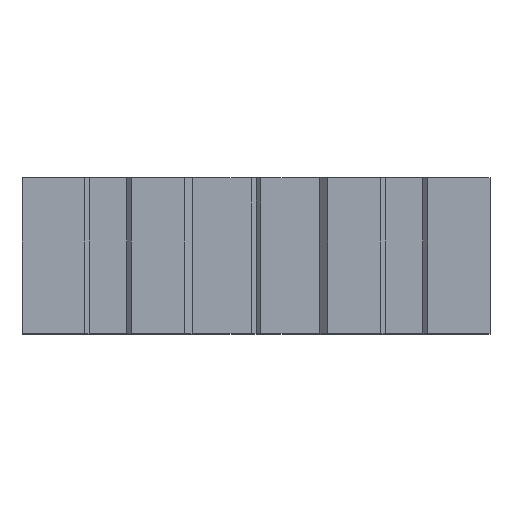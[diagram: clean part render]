
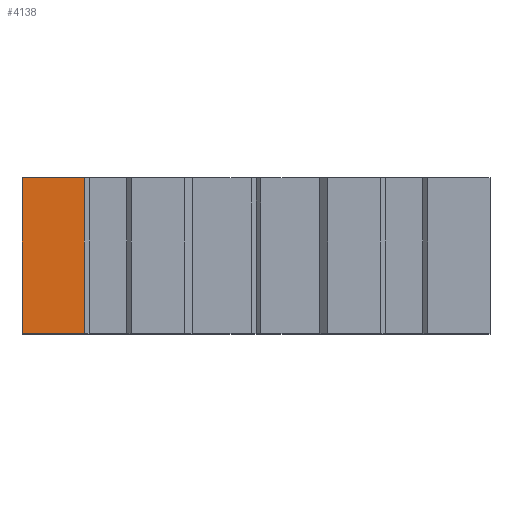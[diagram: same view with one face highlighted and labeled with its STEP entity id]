
A CAD part, top view. The second image highlights one B-rep face of the part: STEP entity #4138.
In plain terms, the highlighted planar face has unit normal (0, 0, 1).
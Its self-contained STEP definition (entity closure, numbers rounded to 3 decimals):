
#269=DIRECTION('',(1.,0.,0.));
#270=VECTOR('',#269,4.);
#271=CARTESIAN_POINT('',(-15.,0.,15.));
#272=LINE('',#271,#270);
#909=DIRECTION('',(1.,0.,0.));
#910=VECTOR('',#909,4.);
#911=CARTESIAN_POINT('',(-15.,10.,15.));
#912=LINE('',#911,#910);
#1517=DIRECTION('',(0.,1.,0.));
#1518=VECTOR('',#1517,10.);
#1519=CARTESIAN_POINT('',(-11.,0.,15.));
#1520=LINE('',#1519,#1518);
#1521=DIRECTION('',(0.,1.,0.));
#1522=VECTOR('',#1521,10.);
#1523=CARTESIAN_POINT('',(-15.,0.,15.));
#1524=LINE('',#1523,#1522);
#1781=CARTESIAN_POINT('',(-15.,0.,15.));
#1782=CARTESIAN_POINT('',(-15.,10.,15.));
#1783=VERTEX_POINT('',#1781);
#1784=VERTEX_POINT('',#1782);
#2103=CARTESIAN_POINT('',(-11.,0.,15.));
#2104=VERTEX_POINT('',#2103);
#2151=CARTESIAN_POINT('',(-11.,10.,15.));
#2152=VERTEX_POINT('',#2151);
#4126=CARTESIAN_POINT('',(-15.,0.,15.));
#4127=DIRECTION('',(0.,0.,1.));
#4128=DIRECTION('',(1.,0.,0.));
#4129=AXIS2_PLACEMENT_3D('',#4126,#4127,#4128);
#4130=PLANE('',#4129);
#4132=ORIENTED_EDGE('',*,*,#4131,.F.);
#4133=ORIENTED_EDGE('',*,*,#2430,.F.);
#4134=ORIENTED_EDGE('',*,*,#3835,.T.);
#4135=ORIENTED_EDGE('',*,*,#3008,.T.);
#4136=EDGE_LOOP('',(#4132,#4133,#4134,#4135));
#4137=FACE_OUTER_BOUND('',#4136,.F.);
#4138=ADVANCED_FACE('',(#4137),#4130,.T.);
#2430=EDGE_CURVE('',#1783,#2104,#272,.T.);
#3008=EDGE_CURVE('',#1784,#2152,#912,.T.);
#3835=EDGE_CURVE('',#1783,#1784,#1524,.T.);
#4131=EDGE_CURVE('',#2104,#2152,#1520,.T.);
